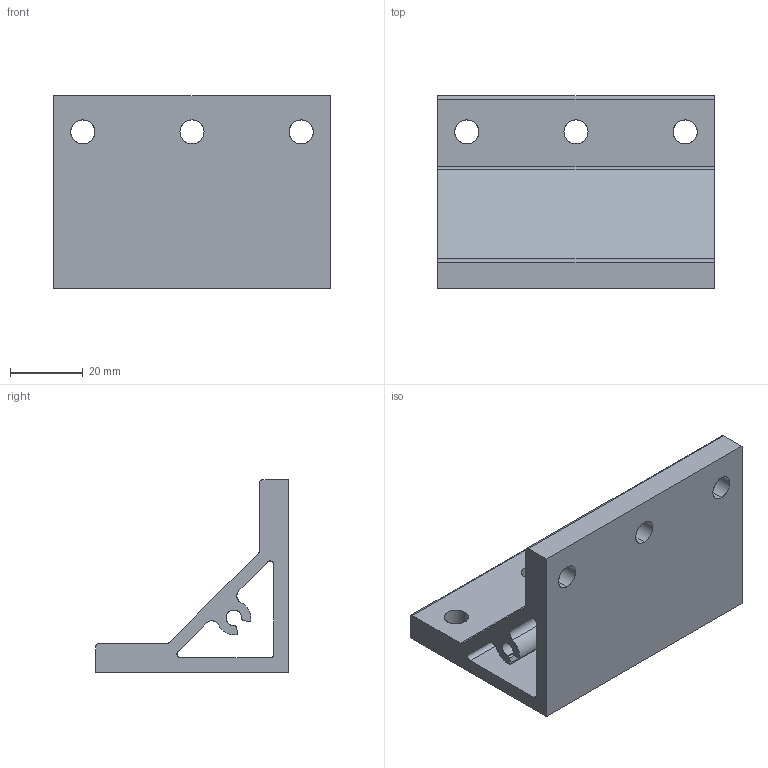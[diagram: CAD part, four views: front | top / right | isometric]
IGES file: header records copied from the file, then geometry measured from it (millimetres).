
Start section: SolidWorks IGES file using analytic representation for surfaces
Global section: file name: C:\Users\admin\Desktop\IGES\J3ARTN.igs; native system: SolidWorks 2014; preprocessor: SolidWorks 2014; author: admin_pc; date: 170524.165316; units: millimetre
Bounding box: 76 x 53 x 53 mm (x, y, z)
Surface area: 25685.5 mm2 (no closed solid volume)
Topology: 0 solids, 0 shells, 48 faces, 846 edges, 846 vertices
Faces by surface type: revolution 33, bspline 15
